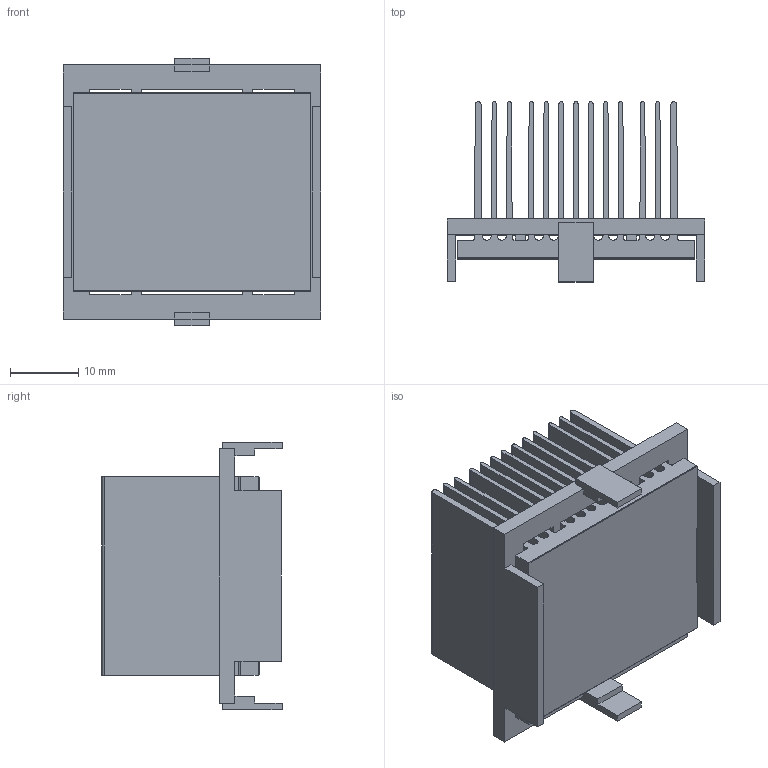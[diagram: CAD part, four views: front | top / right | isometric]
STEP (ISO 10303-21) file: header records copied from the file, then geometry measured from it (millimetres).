
FILE_DESCRIPTION (( 'STEP AP214' ), '1' );
FILE_NAME ('INH35001-23-2.6Y.STEP', '2023-02-17T22:50:22', ( '' ), ( '' ), 'SwSTEP 2.0', 'SolidWorks 2020', '' );
FILE_SCHEMA (( 'AUTOMOTIVE_DESIGN' ));
Length unit declared in the file: millimetre
Products named in the file (1): INH35001-23-2.6Y
Bounding box: 37.7 x 26.36 x 39.2 mm (x, y, z)
Volume: 10436.8 mm3; surface area: 22430.6 mm2
Topology: 3 solids, 3 shells, 148 faces, 426 edges, 284 vertices
Faces by surface type: plane 109, cylinder 39
Entity records: 6512 total; most frequent: CARTESIAN_POINT 859, ORIENTED_EDGE 852, DIRECTION 802, EDGE_CURVE 426, LINE 348, VECTOR 348, VERTEX_POINT 284, AXIS2_PLACEMENT_3D 227
